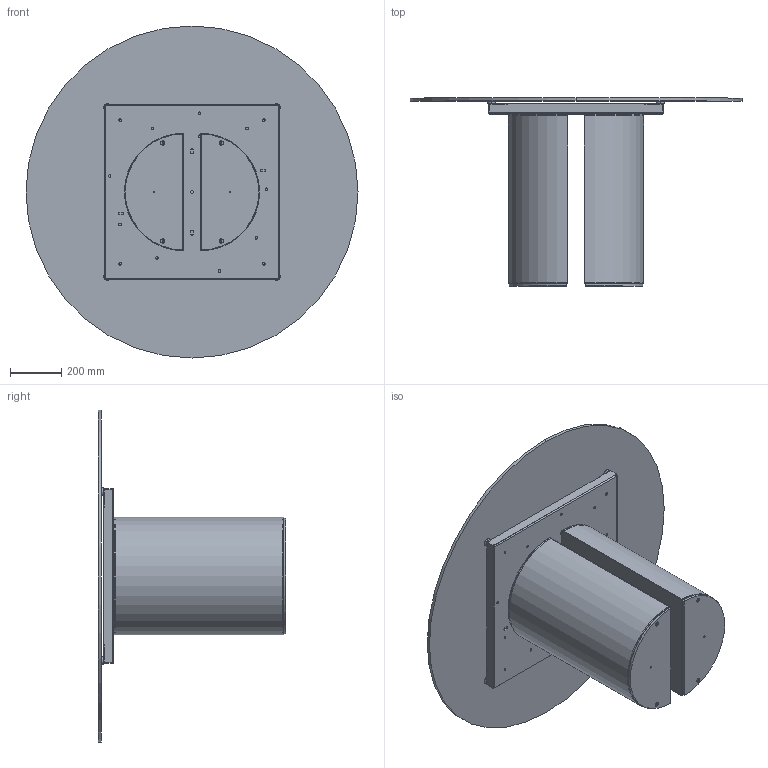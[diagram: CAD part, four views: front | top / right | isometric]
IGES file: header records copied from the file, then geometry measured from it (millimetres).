
Start section: SolidWorks IGES file using analytic representation for surfaces
Global section: file name: Y:\eforma\TECNICO\SOLIDWORKS\E-FORMA\1-TAVOLI\DORA\02 parts\DR05G.IGS; native system: SolidWorks 2022; preprocessor: SolidWorks 2022; author: eforma.tech; date: 240806.145814; units: millimetre
Bounding box: 1300 x 736 x 1300 mm (x, y, z)
Volume: 23793316.1 mm3; surface area: 7756271.7 mm2
Topology: 28 solids, 28 shells, 706 faces, 1778 edges, 1124 vertices
Faces by surface type: plane 358, revolution 348
